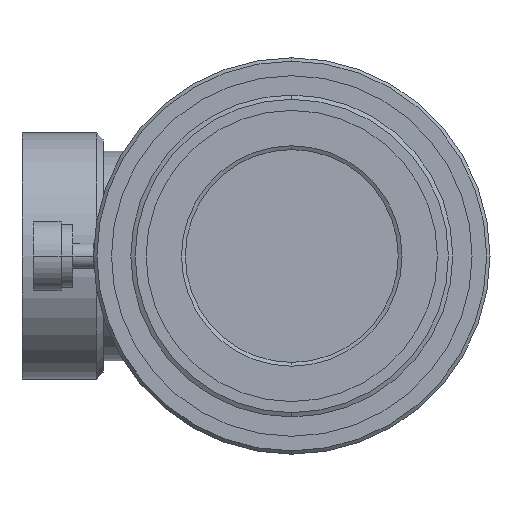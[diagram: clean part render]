
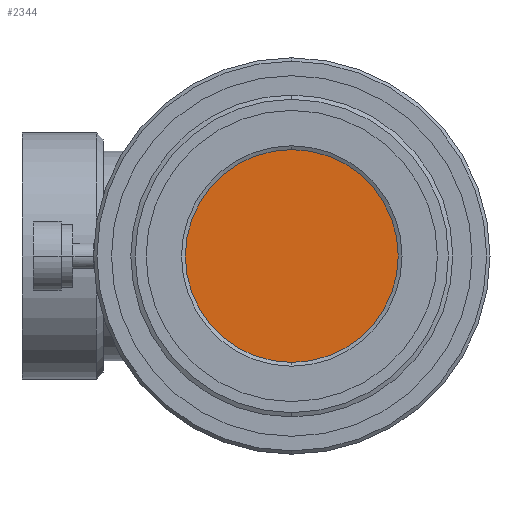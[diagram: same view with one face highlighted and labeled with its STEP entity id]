
A CAD part, front view. The second image highlights one B-rep face of the part: STEP entity #2344.
In plain terms, the highlighted planar face has unit normal (0, -1, 0).
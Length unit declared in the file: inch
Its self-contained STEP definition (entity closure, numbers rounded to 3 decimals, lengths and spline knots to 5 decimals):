
#32 = DIRECTION ( 'NONE',  ( 0., 1., 0. ) ) ;
#178 = VERTEX_POINT ( 'NONE', #631 ) ;
#186 = CARTESIAN_POINT ( 'NONE',  ( 0., -0.69663, 0. ) ) ;
#215 = EDGE_LOOP ( 'NONE', ( #1062, #937 ) ) ;
#295 = PLANE ( 'NONE',  #415 ) ;
#347 = DIRECTION ( 'NONE',  ( 0., -1., 0. ) ) ;
#366 = DIRECTION ( 'NONE',  ( 0., 0., -1. ) ) ;
#415 = AXIS2_PLACEMENT_3D ( 'NONE', #499, #32, #1510 ) ;
#417 = CARTESIAN_POINT ( 'NONE',  ( 0., -0.69663, -0.49213 ) ) ;
#499 = CARTESIAN_POINT ( 'NONE',  ( -0.49213, -0.69663, 0. ) ) ;
#573 = EDGE_CURVE ( 'NONE', #1549, #178, #1534, .T. ) ;
#631 = CARTESIAN_POINT ( 'NONE',  ( 0., -0.69663, 0.49213 ) ) ;
#692 = DIRECTION ( 'NONE',  ( 0., -1., 0. ) ) ;
#702 = DIRECTION ( 'NONE',  ( 0., 0., -1. ) ) ;
#937 = ORIENTED_EDGE ( 'NONE', *, *, #573, .T. ) ;
#1062 = ORIENTED_EDGE ( 'NONE', *, *, #1342, .T. ) ;
#1229 = CIRCLE ( 'NONE', #1471, 0.49213 ) ;
#1342 = EDGE_CURVE ( 'NONE', #178, #1549, #1229, .T. ) ;
#1390 = AXIS2_PLACEMENT_3D ( 'NONE', #1839, #347, #366 ) ;
#1471 = AXIS2_PLACEMENT_3D ( 'NONE', #186, #692, #702 ) ;
#1510 = DIRECTION ( 'NONE',  ( 0., 0., 1. ) ) ;
#1534 = CIRCLE ( 'NONE', #1390, 0.49213 ) ;
#1549 = VERTEX_POINT ( 'NONE', #417 ) ;
#1839 = CARTESIAN_POINT ( 'NONE',  ( 0., -0.69663, 0. ) ) ;
#1854 = FACE_OUTER_BOUND ( 'NONE', #215, .T. ) ;
#2344 = ADVANCED_FACE ( 'NONE', ( #1854 ), #295, .F. ) ;
